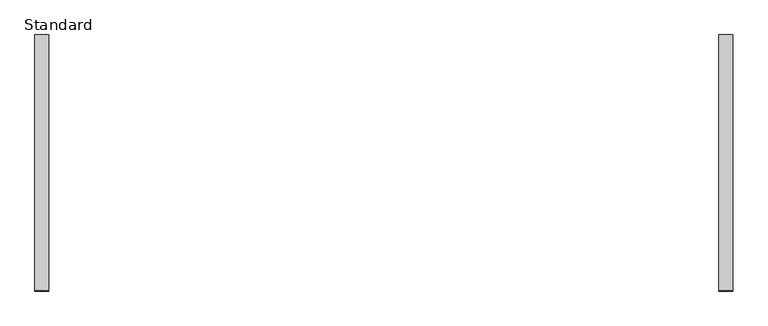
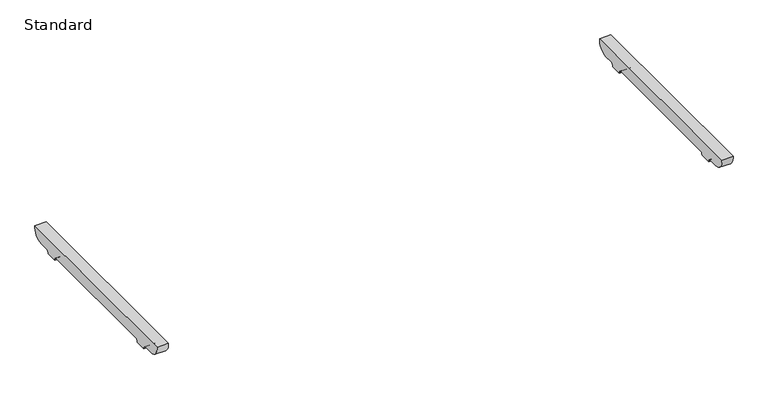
"""IFC4 building model written with IfcOpenShell, lengths in millimetres: furniture geometry, BDG_BossDesign_Tbls_AgentTables4Legs_Nested : Standard."""

from ifc_helpers import new_model, si_unit, point, frame, frame_2d, origin, place, context, project, spatial, polyline, circle_curve, trimmed, segment, composite_curve, outline, extrude, source, transform, mapped, element, save


def standard_cbe8bfad(model_context):
    return source(origin(), model_context, "Body", "SweptSolid", [
        extrude(outline(composite_curve([segment(polyline([(380.5450184, 672.0), (342.7000122, 672.0)]), True, "CONTINUOUS"), segment(trimmed(circle_curve(frame_2d((342.7000122, 660.0)), 12.0), [point((342.7000122, 672.0))], [point((330.7000122, 660.0))], True, "CARTESIAN"), True, "CONTINUOUS"), segment(polyline([(330.7000122, 660.0), (285.7000122, 660.0)]), True, "CONTINUOUS"), segment(trimmed(circle_curve(frame_2d((273.7000122, 660.0)), 12.0), [point((285.7000122, 660.0))], [point((273.7000122, 672.0))], True, "CARTESIAN"), True, "CONTINUOUS"), segment(polyline([(273.7000122, 672.0), (-273.7000122, 672.0)]), True, "CONTINUOUS"), segment(trimmed(circle_curve(frame_2d((-273.7000122, 660.0)), 12.0), [point((-273.7000122, 672.0))], [point((-285.7000122, 660.0))], True, "CARTESIAN"), True, "CONTINUOUS"), segment(polyline([(-285.7000122, 660.0), (-330.7000122, 660.0)]), True, "CONTINUOUS"), segment(trimmed(circle_curve(frame_2d((-342.7000122, 660.0)), 12.0), [point((-330.7000122, 660.0))], [point((-342.7000122, 672.0))], True, "CARTESIAN"), True, "CONTINUOUS"), segment(polyline([(-342.7000122, 672.0), (-380.5450184, 672.0)]), True, "CONTINUOUS"), segment(trimmed(circle_curve(frame_2d((-378.2220439, 716.5514119)), 44.6119324), [point((-380.5450184, 672.0))], [point((-422.5, 722.0))], False, "CARTESIAN"), True, "CONTINUOUS"), segment(polyline([(-422.5, 722.0), (422.5, 722.0)]), True, "CONTINUOUS"), segment(trimmed(circle_curve(frame_2d((378.2220439, 716.5514119)), 44.6119324), [point((422.5, 722.0))], [point((380.5450184, 672.0))], False, "CARTESIAN"), True, "CONTINUOUS")], self_intersect=False)), frame((1105.0, 0.0, 0.0), z_axis=(1.0, 0.0, 0.0), x_axis=(0.0, 1.0, 0.0)), (0.0, 0.0, 1.0), 45.0),
        extrude(outline(composite_curve([segment(polyline([(380.5450184, 672.0), (342.7000122, 672.0)]), True, "CONTINUOUS"), segment(trimmed(circle_curve(frame_2d((342.7000122, 660.0)), 12.0), [point((342.7000122, 672.0))], [point((330.7000122, 660.0))], True, "CARTESIAN"), True, "CONTINUOUS"), segment(polyline([(330.7000122, 660.0), (285.7000122, 660.0)]), True, "CONTINUOUS"), segment(trimmed(circle_curve(frame_2d((273.7000122, 660.0)), 12.0), [point((285.7000122, 660.0))], [point((273.7000122, 672.0))], True, "CARTESIAN"), True, "CONTINUOUS"), segment(polyline([(273.7000122, 672.0), (-273.7000122, 672.0)]), True, "CONTINUOUS"), segment(trimmed(circle_curve(frame_2d((-273.7000122, 660.0)), 12.0), [point((-273.7000122, 672.0))], [point((-285.7000122, 660.0))], True, "CARTESIAN"), True, "CONTINUOUS"), segment(polyline([(-285.7000122, 660.0), (-330.7000122, 660.0)]), True, "CONTINUOUS"), segment(trimmed(circle_curve(frame_2d((-342.7000122, 660.0)), 12.0), [point((-330.7000122, 660.0))], [point((-342.7000122, 672.0))], True, "CARTESIAN"), True, "CONTINUOUS"), segment(polyline([(-342.7000122, 672.0), (-380.5450184, 672.0)]), True, "CONTINUOUS"), segment(trimmed(circle_curve(frame_2d((-378.2220439, 716.5514119)), 44.6119324), [point((-380.5450184, 672.0))], [point((-422.5, 722.0))], False, "CARTESIAN"), True, "CONTINUOUS"), segment(polyline([(-422.5, 722.0), (422.5, 722.0)]), True, "CONTINUOUS"), segment(trimmed(circle_curve(frame_2d((378.2220439, 716.5514119)), 44.6119324), [point((422.5, 722.0))], [point((380.5450184, 672.0))], False, "CARTESIAN"), True, "CONTINUOUS")], self_intersect=False)), frame((-1150.0, 0.0, 0.0), z_axis=(1.0, 0.0, 0.0), x_axis=(0.0, 1.0, 0.0)), (0.0, 0.0, 1.0), 45.0),
    ])


if __name__ == "__main__":
    model = new_model("IFC4")
    model_context = context("Model", 3, world=origin())
    ifc_project = project(units=[si_unit("LENGTHUNIT", "METRE", prefix="MILLI")], contexts=[model_context])
    site = spatial("IfcSite", under=ifc_project)
    building = spatial("IfcBuilding", under=site)
    placement = place(None, origin())
    standard_shape = standard_cbe8bfad(model_context)
    element("IfcFurniture", 1, ObjectType="BDG_BossDesign_Tbls_AgentTables4Legs_Nested : Standard", at=placement, inside=building, context=model_context, shape_type="MappedRepresentation", body=[
        mapped(standard_shape, transform((0.0, 0.0, 0.0), x_axis=(1.0, 0.0, 0.0), y_axis=(0.0, 1.0, 0.0), z_axis=(0.0, 0.0, 1.0))),
    ])
    save(model, "model.ifc")
